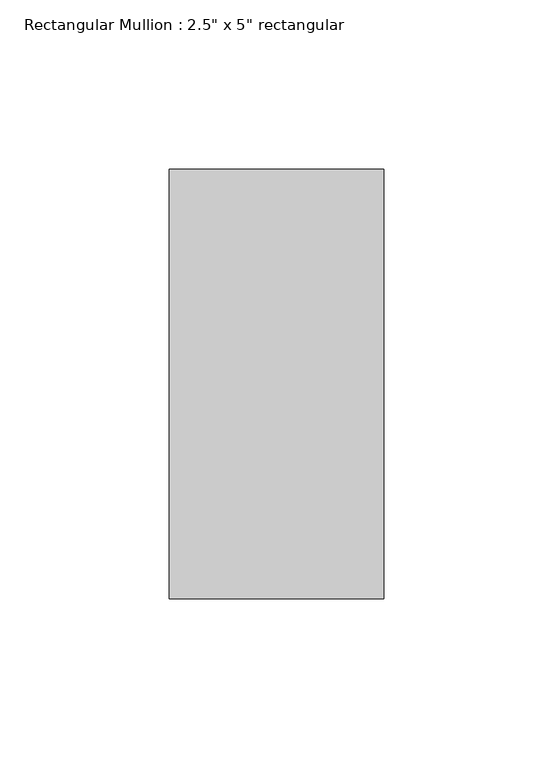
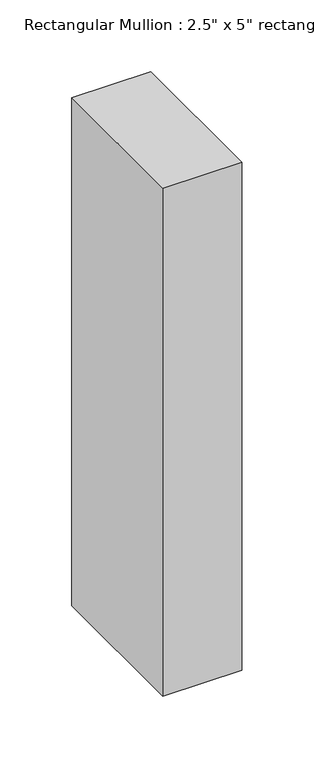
"""IFC4 building model written with IfcOpenShell, lengths in millimetres: member geometry."""

from ifc_helpers import new_model, si_unit, frame, origin, place, context, project, spatial, polyline, outline, extrude, source, transform, mapped, element, save


def member_885614b3(model_context):
    return source(origin(), model_context, "Body", "SweptSolid", [
        extrude(outline(polyline([(31.75, 63.5), (31.75, -63.5), (-31.75, -63.5), (-31.75, 63.5), (31.75, 63.5)])), frame((0.0, 0.0, -431.8), z_axis=(0.0, 0.0, 1.0), x_axis=(1.0, 0.0, 0.0)), (0.0, 0.0, 1.0), 431.8),
    ])


if __name__ == "__main__":
    model = new_model("IFC4")
    model_context = context("Model", 3, world=origin())
    ifc_project = project(units=[si_unit("LENGTHUNIT", "METRE", prefix="MILLI")], contexts=[model_context])
    site = spatial("IfcSite", under=ifc_project)
    building = spatial("IfcBuilding", under=site)
    placement = place(None, origin())
    member_shape = member_885614b3(model_context)
    element("IfcMember", 1, ObjectType="Rectangular Mullion : 2.5\" x 5\" rectangular", at=placement, inside=building, context=model_context, shape_type="MappedRepresentation", body=[
        mapped(member_shape, transform((0.0, 0.0, 0.0), x_axis=(1.0, 0.0, 0.0), y_axis=(0.0, 1.0, 0.0), z_axis=(0.0, 0.0, 1.0))),
    ])
    save(model, "model.ifc")
